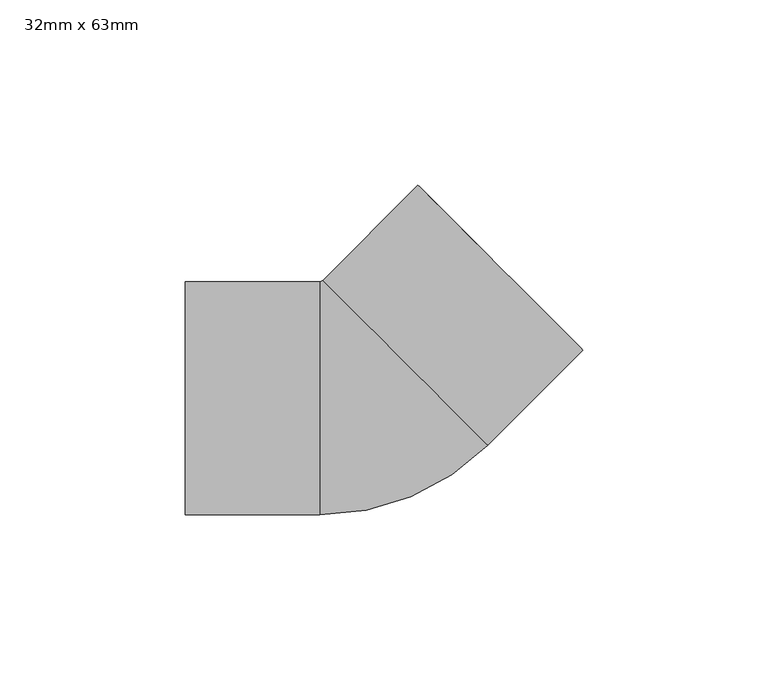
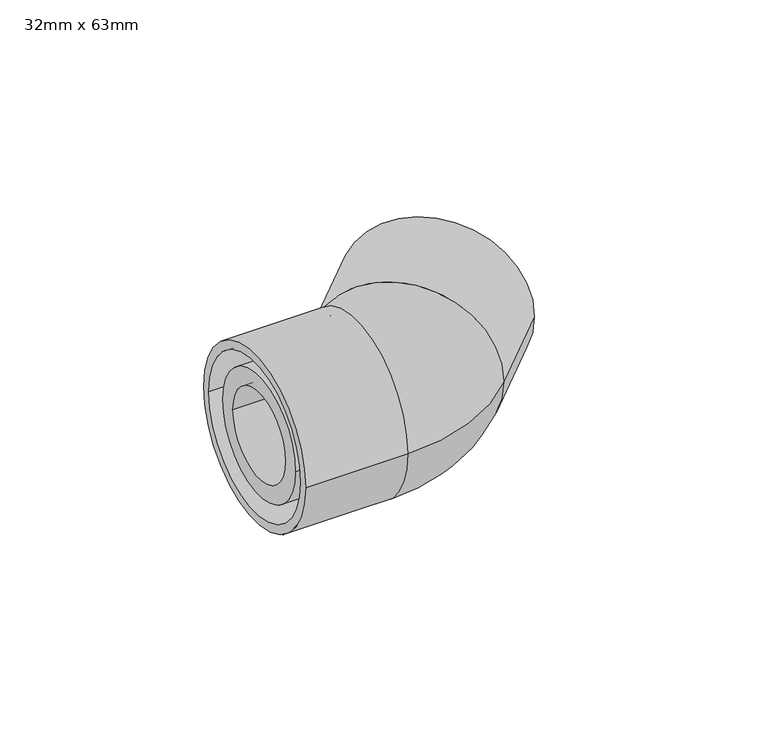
"""IFC4 building model written with IfcOpenShell, lengths in millimetres: pipe fitting geometry, Durapipe_PipeFittings_PLX_CloseFit_45Elbow : 32mm x 63mm."""

from ifc_helpers import new_model, si_unit, point, frame, origin, place, context, project, spatial, polyline, circle_curve, ellipse_curve, trimmed, source, transform, mapped, element, save
from ifc_brep_helpers import plane_surface, cylinder_surface, revolved_surface, advanced_brep


def pipe_fitting_32mm_x_63mm_b57f120e(model_context):
    return source(origin(), model_context, "Body", "AdvancedBrep", [
        advanced_brep(
        [(-49.9, -31.5, 0.0), (-49.9, 31.5, 0.0), (-49.9, -28.3, 0.0), (-49.9, 28.3, 0.0), (-13.4619408, -31.5, 0.0), (-13.4619408, 31.5, 0.0), (-13.4619408, -28.3, 0.0), (-13.4619408, 28.3, 0.0), (-12.754834, 31.7928932, 0.0), (31.7928932, -12.754834, 0.0), (-10.4920923, 29.5301515, 0.0), (29.5301515, -10.4920923, 0.0), (57.558492, 13.0107648, 0.0), (13.0107648, 57.558492, 0.0), (55.2957503, 15.2735065, 0.0), (15.2735065, 55.2957503, 0.0)],
        [
            (0, 1, circle_curve(frame((-49.9, 0.0, 0.0), z_axis=(-1.0, 0.0, 0.0), x_axis=(0.0, 1.0, 0.0)), 31.5)),
            (1, 0, circle_curve(frame((-49.9, 0.0, 0.0), z_axis=(-1.0, 0.0, 0.0), x_axis=(0.0, 1.0, 0.0)), 31.5)),
            (2, 3, circle_curve(frame((-49.9, 0.0, 0.0), z_axis=(1.0, 0.0, 0.0), x_axis=(0.0, 1.0, 0.0)), 28.3)),
            (3, 2, circle_curve(frame((-49.9, 0.0, 0.0), z_axis=(1.0, 0.0, 0.0), x_axis=(0.0, 1.0, 0.0)), 28.3)),
            (0, 4),
            (4, 5, circle_curve(frame((-13.4619408, 0.0, 0.0), z_axis=(-1.0, 0.0, 0.0), x_axis=(0.0, 1.0, 0.0)), 31.5)),
            (5, 1),
            (5, 4, circle_curve(frame((-13.4619408, 0.0, 0.0), z_axis=(-1.0, 0.0, 0.0), x_axis=(0.0, 1.0, 0.0)), 31.5)),
            (2, 6),
            (6, 7, circle_curve(frame((-13.4619408, 0.0, 0.0), z_axis=(1.0, 0.0, 0.0), x_axis=(0.0, 1.0, 0.0)), 28.3)),
            (7, 3),
            (7, 6, circle_curve(frame((-13.4619408, 0.0, 0.0), z_axis=(1.0, 0.0, 0.0), x_axis=(0.0, 1.0, 0.0)), 28.3)),
            (8, 5, circle_curve(frame((-13.4619408, 32.5, 0.0), z_axis=(0.0, 0.0, -1.0), x_axis=(0.0, -1.0, 0.0)), 1.0)),
            (4, 9, circle_curve(frame((-13.4619408, 32.5, 0.0), z_axis=(0.0, 0.0, 1.0), x_axis=(0.0, -1.0, 0.0)), 64.0)),
            (9, 8, circle_curve(frame((9.5190296, 9.5190296, 0.0), z_axis=(-0.7071067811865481, -0.7071067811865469, 0.0), x_axis=(-0.7071067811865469, 0.7071067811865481, 0.0)), 31.5)),
            (8, 9, circle_curve(frame((9.5190296, 9.5190296, 0.0), z_axis=(-0.7071067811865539, -0.7071067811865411, 0.0), x_axis=(-0.7071067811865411, 0.7071067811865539, 0.0)), 31.5)),
            (10, 7, circle_curve(frame((-13.4619408, 32.5, 0.0), z_axis=(0.0, 0.0, -1.0), x_axis=(0.0, -1.0, 0.0)), 4.2)),
            (6, 11, circle_curve(frame((-13.4619408, 32.5, 0.0), z_axis=(0.0, 0.0, 1.0), x_axis=(0.0, -1.0, 0.0)), 60.8)),
            (11, 10, circle_curve(frame((9.5190296, 9.5190296, 0.0), z_axis=(0.7071067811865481, 0.7071067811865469, 0.0), x_axis=(-0.7071067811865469, 0.7071067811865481, 0.0)), 28.3)),
            (10, 11, circle_curve(frame((9.5190296, 9.5190296, 0.0), z_axis=(0.7071067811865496, 0.7071067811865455, 0.0), x_axis=(-0.7071067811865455, 0.7071067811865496, 0.0)), 28.3)),
            (12, 13, circle_curve(frame((35.2846284, 35.2846284, 0.0), z_axis=(0.707106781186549, 0.7071067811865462, 0.0), x_axis=(-0.7071067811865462, 0.707106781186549, 0.0)), 31.5)),
            (13, 12, circle_curve(frame((35.2846284, 35.2846284, 0.0), z_axis=(0.707106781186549, 0.7071067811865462, 0.0), x_axis=(-0.7071067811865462, 0.707106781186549, 0.0)), 31.5)),
            (14, 15, circle_curve(frame((35.2846284, 35.2846284, 0.0), z_axis=(-0.707106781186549, -0.7071067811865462, 0.0), x_axis=(-0.7071067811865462, 0.707106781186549, 0.0)), 28.3)),
            (15, 14, circle_curve(frame((35.2846284, 35.2846284, 0.0), z_axis=(-0.707106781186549, -0.7071067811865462, 0.0), x_axis=(-0.7071067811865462, 0.707106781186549, 0.0)), 28.3)),
            (9, 12),
            (13, 8),
            (11, 14),
            (15, 10),
        ],
        [
            plane_surface(frame((-49.9, 0.0, 0.0), z_axis=(-1.0, 0.0, 0.0), x_axis=(0.0, 0.0, 1.0))),
            cylinder_surface(frame((-49.9, 0.0, 0.0), z_axis=(-1.0, 0.0, 0.0), x_axis=(0.0, 1.0, 0.0)), 31.5),
            revolved_surface(polyline([(-13.4619408, 28.3, 0.0), (-49.9, 28.3, 0.0)]), (-49.9, 0.0, 0.0), (1.0, 0.0, 0.0)),
            revolved_surface(trimmed(ellipse_curve(frame((-13.4619408, 0.0, 0.0), z_axis=(-1.0, 0.0, 0.0), x_axis=(0.0, 1.0, 0.0)), 31.5, 31.5), [point((-13.4619408, -31.5, 0.0))], [point((-13.4619408, 31.5, 0.0))], True, "CARTESIAN"), (-13.4619408, 32.5, 0.0), (0.0, 0.0, 1.0)),
            revolved_surface(trimmed(ellipse_curve(frame((-13.4619408, 0.0, 0.0), z_axis=(-1.0, 0.0, 0.0), x_axis=(0.0, 1.0, 0.0)), 31.5, 31.5), [point((-13.4619408, 31.5, 0.0))], [point((-13.4619408, -31.5, 0.0))], True, "CARTESIAN"), (-13.4619408, 32.5, 0.0), (0.0, 0.0, 1.0)),
            revolved_surface(trimmed(ellipse_curve(frame((-13.4619408, 0.0, 0.0), z_axis=(1.0, 0.0, 0.0), x_axis=(0.0, 1.0, 0.0)), 28.3, 28.3), [point((-13.4619408, -28.3, 0.0))], [point((-13.4619408, 28.3, 0.0))], True, "CARTESIAN"), (-13.4619408, 32.5, 0.0), (0.0, 0.0, 1.0)),
            revolved_surface(trimmed(ellipse_curve(frame((-13.4619408, 0.0, 0.0), z_axis=(1.0, 0.0, 0.0), x_axis=(0.0, 1.0, 0.0)), 28.3, 28.3), [point((-13.4619408, 28.3, 0.0))], [point((-13.4619408, -28.3, 0.0))], True, "CARTESIAN"), (-13.4619408, 32.5, 0.0), (0.0, 0.0, 1.0)),
            plane_surface(frame((35.2846284, 35.2846284, 0.0), z_axis=(0.707106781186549, 0.7071067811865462, 0.0), x_axis=(0.0, 0.0, 1.0))),
            cylinder_surface(frame((9.5190296, 9.5190296, 0.0), z_axis=(-0.707106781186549, -0.7071067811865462, 0.0), x_axis=(-0.7071067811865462, 0.707106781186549, 0.0)), 31.5),
            revolved_surface(polyline([(15.27350649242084, 55.29575030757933, 0.0), (-10.4920923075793, 29.530151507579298, 0.0)]), (9.5190296, 9.5190296, 0.0), (0.707106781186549, 0.7071067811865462, 0.0)),
        ],
        [
            (0, [[1, 2], [3, 4]]),
            (1, [[-1, 5, 6, 7]]),
            (1, [[-2, -7, 8, -5]]),
            (2, [[-3, 9, 10, 11]]),
            (2, [[-4, -11, 12, -9]]),
            (3, [[13, -6, 14, 15]]),
            (4, [[-14, -8, -13, 16]]),
            (5, [[17, -10, 18, 19]]),
            (6, [[-18, -12, -17, 20]]),
            (7, [[21, 22], [23, 24]]),
            (8, [[-15, 25, -22, 26]]),
            (8, [[-16, -26, -21, -25]]),
            (9, [[-19, 27, -24, 28]]),
            (9, [[-20, -28, -23, -27]]),
        ],
    ),
        advanced_brep(
        [(-9.7340187, 22.5, 0.0), (-9.7340187, -22.5, 0.0), (22.7928932, -9.0269119, 0.0), (-9.0269119, 22.7928932, 0.0), (-48.3, -22.5, 0.0), (-48.3, 22.5, 0.0), (-48.3, -16.2, 0.0), (-48.3, 16.2, 0.0), (18.243355, 50.0631601, 0.0), (50.0631601, 18.243355, 0.0), (34.1532575, 34.1532575, 16.2), (34.1532575, 34.1532575, -16.2), (-8.3, 16.2, 0.0), (-8.3, -16.2, 0.0), (5.8689863, 5.8689863, -16.2), (5.8689863, 5.8689863, 16.2)],
        [
            (0, 1, circle_curve(frame((-9.7340187, 0.0, 0.0), z_axis=(1.0, 0.0, 0.0), x_axis=(0.0, 1.0, 0.0)), 22.5)),
            (1, 2, circle_curve(frame((-9.7340187, 23.5, 0.0), z_axis=(0.0, 0.0, 1.0), x_axis=(0.0, -1.0, 0.0)), 46.0)),
            (2, 3, circle_curve(frame((6.8829906, 6.8829906, 0.0), z_axis=(-0.707106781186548, -0.7071067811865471, 0.0), x_axis=(-0.7071067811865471, 0.707106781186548, 0.0)), 22.5)),
            (3, 0, circle_curve(frame((-9.7340187, 23.5, 0.0), z_axis=(0.0, 0.0, -1.0), x_axis=(0.0, -1.0, 0.0)), 1.0)),
            (1, 0, circle_curve(frame((-9.7340187, 0.0, 0.0), z_axis=(1.0, 0.0, 0.0), x_axis=(0.0, 1.0, 0.0)), 22.5)),
            (3, 2, circle_curve(frame((6.8829906, 6.8829906, 0.0), z_axis=(-0.7071067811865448, -0.7071067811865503, 0.0), x_axis=(-0.7071067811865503, 0.7071067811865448, 0.0)), 22.5)),
            (4, 5, circle_curve(frame((-48.3, 0.0, 0.0), z_axis=(-1.0, 0.0, 0.0), x_axis=(0.0, 1.0, 0.0)), 22.5)),
            (5, 4, circle_curve(frame((-48.3, 0.0, 0.0), z_axis=(-1.0, 0.0, 0.0), x_axis=(0.0, 1.0, 0.0)), 22.5)),
            (6, 7, circle_curve(frame((-48.3, 0.0, 0.0), z_axis=(1.0, 0.0, 0.0), x_axis=(0.0, -1.0, 0.0)), 16.2)),
            (7, 6, circle_curve(frame((-48.3, 0.0, 0.0), z_axis=(1.0, 0.0, 0.0), x_axis=(0.0, -1.0, 0.0)), 16.2)),
            (8, 9, circle_curve(frame((34.1532575, 34.1532575, 0.0), z_axis=(0.7071067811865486, 0.7071067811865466, 0.0), x_axis=(-0.7071067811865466, 0.7071067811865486, 0.0)), 22.5)),
            (9, 8, circle_curve(frame((34.1532575, 34.1532575, 0.0), z_axis=(0.7071067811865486, 0.7071067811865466, 0.0), x_axis=(-0.7071067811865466, 0.7071067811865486, 0.0)), 22.5)),
            (10, 11, circle_curve(frame((34.1532575, 34.1532575, 0.0), z_axis=(-0.7071067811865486, -0.7071067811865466, 0.0), x_axis=(0.0, 0.0, 1.0)), 16.2)),
            (11, 10, circle_curve(frame((34.1532575, 34.1532575, 0.0), z_axis=(-0.7071067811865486, -0.7071067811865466, 0.0), x_axis=(0.0, 0.0, 1.0)), 16.2)),
            (0, 5),
            (4, 1),
            (2, 9),
            (8, 3),
            (12, 13, circle_curve(frame((-8.3, 0.0, 0.0), z_axis=(-1.0, 0.0, 0.0), x_axis=(0.0, -1.0, 0.0)), 16.2)),
            (13, 12, circle_curve(frame((-8.3, 0.0, 0.0), z_axis=(-1.0, 0.0, 0.0), x_axis=(0.0, -1.0, 0.0)), 16.2)),
            (12, 7),
            (6, 13),
            (14, 15, circle_curve(frame((5.8689863, 5.8689863, 0.0), z_axis=(0.7071067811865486, 0.7071067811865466, 0.0), x_axis=(0.0, 0.0, 1.0)), 16.2)),
            (15, 14, circle_curve(frame((5.8689863, 5.8689863, 0.0), z_axis=(0.7071067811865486, 0.7071067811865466, 0.0), x_axis=(0.0, 0.0, 1.0)), 16.2)),
            (14, 11),
            (10, 15),
        ],
        [
            revolved_surface(trimmed(ellipse_curve(frame((-9.7340187, 0.0, 0.0), z_axis=(-1.0, 0.0, 0.0), x_axis=(0.0, 1.0, 0.0)), 22.5, 22.5), [point((-9.7340187, -22.5, 0.0))], [point((-9.7340187, 22.5, 0.0))], True, "CARTESIAN"), (-9.7340187, 23.5, 0.0), (0.0, 0.0, 1.0)),
            revolved_surface(trimmed(ellipse_curve(frame((-9.7340187, 0.0, 0.0), z_axis=(-1.0, 0.0, 0.0), x_axis=(0.0, 1.0, 0.0)), 22.5, 22.5), [point((-9.7340187, 22.5, 0.0))], [point((-9.7340187, -22.5, 0.0))], True, "CARTESIAN"), (-9.7340187, 23.5, 0.0), (0.0, 0.0, 1.0)),
            plane_surface(frame((-48.3, 0.0, 0.0), z_axis=(-1.0, 0.0, 0.0), x_axis=(0.0, 0.0, 1.0))),
            plane_surface(frame((34.1532575, 34.1532575, 0.0), z_axis=(0.7071067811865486, 0.7071067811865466, 0.0), x_axis=(0.0, 0.0, 1.0))),
            cylinder_surface(frame((-48.3, 0.0, 0.0), z_axis=(-1.0, 0.0, 0.0), x_axis=(0.0, 1.0, 0.0)), 22.5),
            cylinder_surface(frame((6.8829906, 6.8829906, 0.0), z_axis=(-0.7071067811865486, -0.7071067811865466, 0.0), x_axis=(-0.7071067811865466, 0.7071067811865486, 0.0)), 22.5),
            plane_surface(frame((-8.3, -16.2, 0.0), z_axis=(-1.0, 0.0, 0.0), x_axis=(0.0, 0.0, -1.0))),
            revolved_surface(polyline([(-48.3, -16.2, 0.0), (-8.3, -16.2, 0.0)]), (-8.3, 0.0, 0.0), (-1.0, 0.0, 0.0)),
            plane_surface(frame((5.8689863, 5.8689863, 16.2), z_axis=(0.7071067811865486, 0.7071067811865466, 0.0), x_axis=(-0.7071067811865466, 0.7071067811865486, 0.0))),
            revolved_surface(polyline([(34.15325750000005, 34.15325749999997, 16.2), (5.8689863, 5.8689863, 16.2)]), (5.8689863, 5.8689863, 0.0), (0.7071067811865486, 0.7071067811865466, 0.0)),
        ],
        [
            (0, [[1, 2, 3, 4]]),
            (1, [[5, -4, 6, -2]]),
            (2, [[7, 8], [9, 10]]),
            (3, [[11, 12], [13, 14]]),
            (4, [[-1, 15, -7, 16]]),
            (4, [[-5, -16, -8, -15]]),
            (5, [[-3, 17, -11, 18]]),
            (5, [[-6, -18, -12, -17]]),
            (6, [[19, 20]]),
            (7, [[-19, 21, -9, 22]]),
            (7, [[-20, -22, -10, -21]]),
            (8, [[23, 24]]),
            (9, [[-23, 25, -13, 26]]),
            (9, [[-24, -26, -14, -25]]),
        ],
    ),
    ])


if __name__ == "__main__":
    model = new_model("IFC4")
    model_context = context("Model", 3, world=origin())
    ifc_project = project(units=[si_unit("LENGTHUNIT", "METRE", prefix="MILLI")], contexts=[model_context])
    site = spatial("IfcSite", under=ifc_project)
    building = spatial("IfcBuilding", under=site)
    placement = place(None, origin())
    pipe_fitting_32mm_x_63mm_shape = pipe_fitting_32mm_x_63mm_b57f120e(model_context)
    element("IfcPipeFitting", 1, ObjectType="Durapipe_PipeFittings_PLX_CloseFit_45Elbow : 32mm x 63mm", at=placement, inside=building, context=model_context, shape_type="MappedRepresentation", body=[
        mapped(pipe_fitting_32mm_x_63mm_shape, transform((0.0, 0.0, 0.0), x_axis=(1.0, 0.0, 0.0), y_axis=(0.0, 1.0, 0.0), z_axis=(0.0, 0.0, 1.0))),
    ])
    save(model, "model.ifc")
